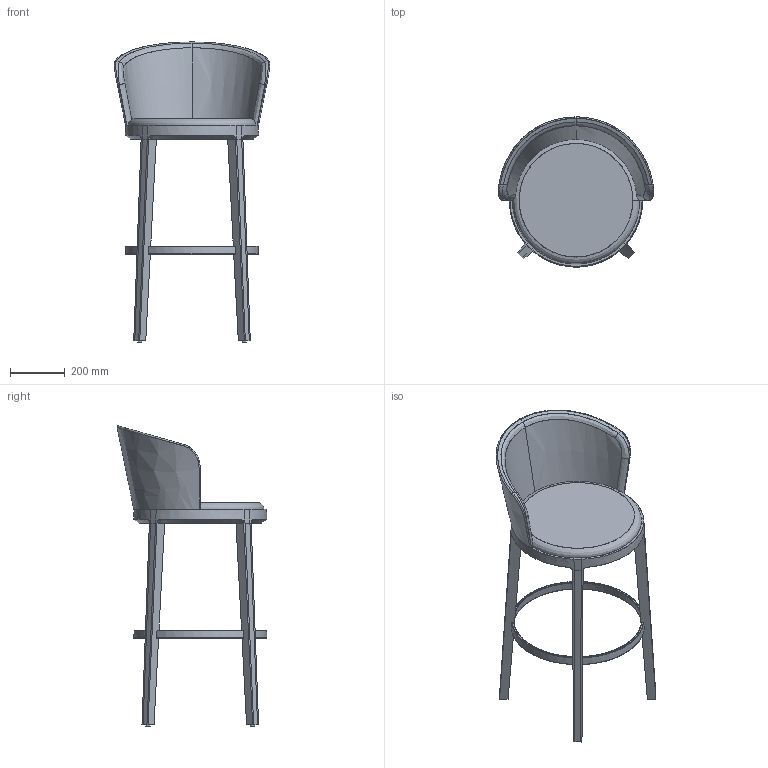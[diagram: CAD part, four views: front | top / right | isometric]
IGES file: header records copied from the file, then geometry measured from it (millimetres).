
Global section: file name: C:\Users\W10\Desktop\Capdell\DAVID_CAPDELL\ARO\ARO_COLLECTION_EXPORTABLES\691TH78\691TH78.igs; native system: Rhinoceros ( Mar  4 2014 ); preprocessor: Trout Lake IGES 012 Mar  4 2014; date: 210330.064855; units: millimetre
Bounding box: 566.49 x 546.23 x 1094.11 mm (x, y, z)
Surface area: 1527769 mm2 (no closed solid volume)
Topology: 0 solids, 0 shells, 216 faces, 2557 edges, 2543 vertices
Faces by surface type: bspline 216
